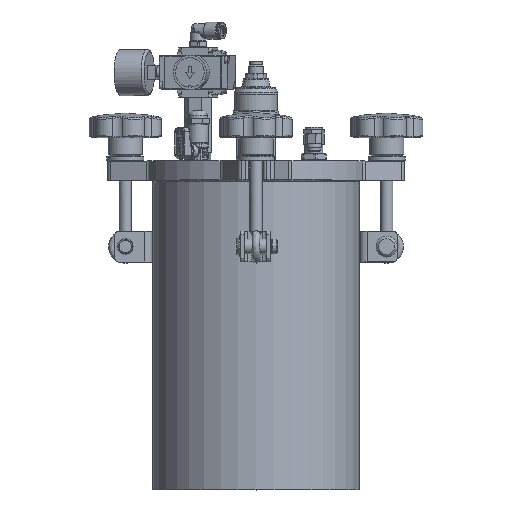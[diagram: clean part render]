
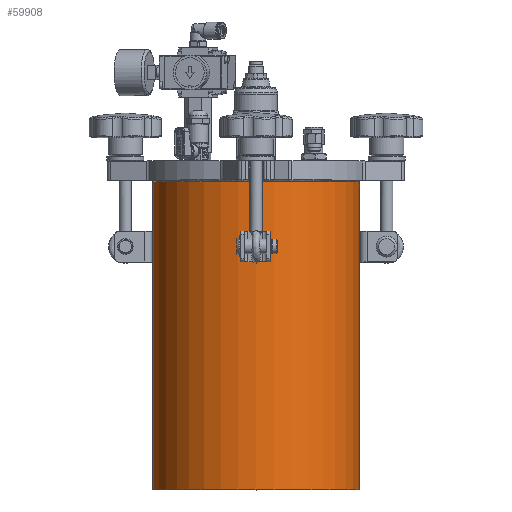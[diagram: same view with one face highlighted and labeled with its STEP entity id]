
A CAD part, top view. The second image highlights one B-rep face of the part: STEP entity #59908.
In plain terms, the highlighted cylindrical face has radius 84.15 mm (diameter 168.3 mm), a full revolution.
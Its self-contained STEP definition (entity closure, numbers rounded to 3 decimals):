
#1358 = AXIS2_PLACEMENT_3D ( 'NONE', #37510, #9083, #49213 ) ;
#7826 = VERTEX_POINT ( 'NONE', #24850 ) ;
#9083 = DIRECTION ( 'NONE',  ( 0., -1., 0. ) ) ;
#11811 = EDGE_LOOP ( 'NONE', ( #40202 ) ) ;
#12064 = EDGE_CURVE ( 'NONE', #53873, #53873, #44864, .T. ) ;
#16532 = CIRCLE ( 'NONE', #27393, 84.15 ) ;
#17270 = FACE_OUTER_BOUND ( 'NONE', #49119, .T. ) ;
#22943 = FACE_OUTER_BOUND ( 'NONE', #11811, .T. ) ;
#24850 = CARTESIAN_POINT ( 'NONE',  ( 114.65, 0., -84.15 ) ) ;
#27393 = AXIS2_PLACEMENT_3D ( 'NONE', #30981, #42739, #54051 ) ;
#30981 = CARTESIAN_POINT ( 'NONE',  ( 114.65, 0., 0. ) ) ;
#37510 = CARTESIAN_POINT ( 'NONE',  ( 114.65, 250., 0. ) ) ;
#38898 = CYLINDRICAL_SURFACE ( 'NONE', #50887, 84.15 ) ;
#40202 = ORIENTED_EDGE ( 'NONE', *, *, #50972, .T. ) ;
#40349 = CARTESIAN_POINT ( 'NONE',  ( 114.65, 250., 0. ) ) ;
#42739 = DIRECTION ( 'NONE',  ( 0., 1., 0. ) ) ;
#44864 = CIRCLE ( 'NONE', #1358, 84.15 ) ;
#49119 = EDGE_LOOP ( 'NONE', ( #65385 ) ) ;
#49213 = DIRECTION ( 'NONE',  ( 0., 0., -1. ) ) ;
#50223 = DIRECTION ( 'NONE',  ( 0., 0., -1. ) ) ;
#50887 = AXIS2_PLACEMENT_3D ( 'NONE', #40349, #55908, #50223 ) ;
#50972 = EDGE_CURVE ( 'NONE', #7826, #7826, #16532, .T. ) ;
#53873 = VERTEX_POINT ( 'NONE', #58447 ) ;
#54051 = DIRECTION ( 'NONE',  ( 0., 0., -1. ) ) ;
#55908 = DIRECTION ( 'NONE',  ( 0., -1., 0. ) ) ;
#58447 = CARTESIAN_POINT ( 'NONE',  ( 114.65, 250., -84.15 ) ) ;
#59908 = ADVANCED_FACE ( 'NONE', ( #22943, #17270 ), #38898, .T. ) ;
#65385 = ORIENTED_EDGE ( 'NONE', *, *, #12064, .T. ) ;
